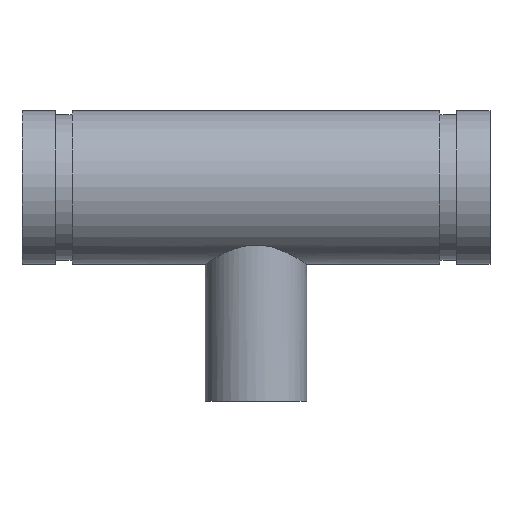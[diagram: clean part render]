
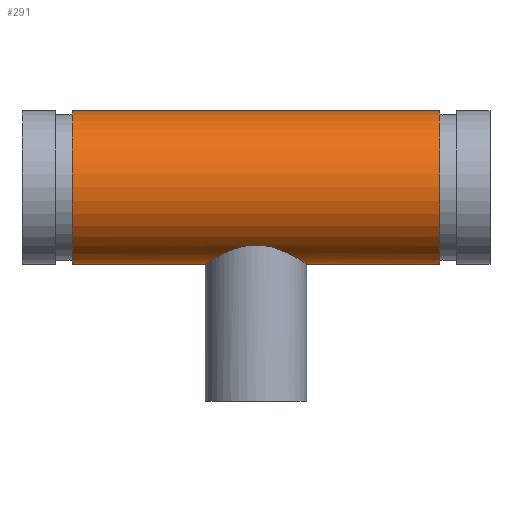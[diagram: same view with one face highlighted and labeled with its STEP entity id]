
A CAD part, top view. The second image highlights one B-rep face of the part: STEP entity #291.
In plain terms, the highlighted cylindrical face has radius 36.513 mm (diameter 73.025 mm), a full revolution.
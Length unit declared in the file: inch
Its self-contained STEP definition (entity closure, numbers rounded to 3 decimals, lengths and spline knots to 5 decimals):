
#45=B_SPLINE_CURVE_WITH_KNOTS('',3,(#511,#512,#513,#514,#515,#516,#517,
#518,#519,#520,#521,#522,#523,#524,#525,#526,#527,#528,#529,#530,#531,#532,
#533,#534,#535,#536,#537,#538,#539,#540,#541,#542,#543,#544,#545,#546,#547,
#548,#549,#550,#551,#552,#553,#554,#555,#556,#557,#558,#559,#560),
 .UNSPECIFIED.,.F.,.F.,(4,2,2,2,2,2,2,2,2,2,2,2,2,2,2,2,2,2,2,2,2,2,2,2,
4),(0.,0.47544,0.95088,1.42632,1.90175,
2.3722,2.84264,3.31308,3.78352,4.25396,
4.7244,5.19484,5.66528,6.14072,6.61616,
7.0916,7.56704,8.04248,8.51792,8.99335,
9.46879,9.93923,10.40968,10.88012,11.35056),
 .UNSPECIFIED.);
#46=B_SPLINE_CURVE_WITH_KNOTS('',3,(#561,#562,#563,#564,#565,#566,#567,
#568,#569,#570,#571,#572,#573,#574,#575,#576,#577,#578),.UNSPECIFIED.,.F.,
 .F.,(4,2,2,2,2,2,2,2,4),(11.35056,11.821,12.29144,
12.76188,13.23232,13.70776,14.1832,14.65864,
15.13408),.UNSPECIFIED.);
#51=LINE('',#508,#59);
#59=VECTOR('',#410,1.4375);
#67=CYLINDRICAL_SURFACE('',#338,1.4375);
#77=FACE_BOUND('',#108,.T.);
#88=FACE_OUTER_BOUND('',#107,.T.);
#107=EDGE_LOOP('',(#221,#222,#223,#224));
#108=EDGE_LOOP('',(#225,#226));
#121=CIRCLE('',#321,1.4375);
#132=CIRCLE('',#337,1.4375);
#141=VERTEX_POINT('',#476);
#152=VERTEX_POINT('',#505);
#153=VERTEX_POINT('',#509);
#154=VERTEX_POINT('',#510);
#165=EDGE_CURVE('',#141,#141,#121,.T.);
#178=EDGE_CURVE('',#152,#152,#132,.T.);
#179=EDGE_CURVE('',#152,#141,#51,.T.);
#180=EDGE_CURVE('',#153,#154,#45,.T.);
#181=EDGE_CURVE('',#154,#153,#46,.T.);
#221=ORIENTED_EDGE('',*,*,#178,.T.);
#222=ORIENTED_EDGE('',*,*,#179,.T.);
#223=ORIENTED_EDGE('',*,*,#165,.T.);
#224=ORIENTED_EDGE('',*,*,#179,.F.);
#225=ORIENTED_EDGE('',*,*,#180,.F.);
#226=ORIENTED_EDGE('',*,*,#181,.F.);
#291=ADVANCED_FACE('',(#88,#77),#67,.T.);
#321=AXIS2_PLACEMENT_3D('',#477,#372,#373);
#337=AXIS2_PLACEMENT_3D('',#506,#406,#407);
#338=AXIS2_PLACEMENT_3D('',#507,#408,#409);
#372=DIRECTION('center_axis',(-1.,0.,0.));
#373=DIRECTION('ref_axis',(0.,-1.,0.));
#406=DIRECTION('center_axis',(1.,0.,0.));
#407=DIRECTION('ref_axis',(0.,-1.,0.));
#408=DIRECTION('center_axis',(-1.,0.,0.));
#409=DIRECTION('ref_axis',(0.,-1.,0.));
#410=DIRECTION('',(1.,0.,0.));
#476=CARTESIAN_POINT('',(3.442,1.4375,0.));
#477=CARTESIAN_POINT('Origin',(3.442,0.,0.));
#505=CARTESIAN_POINT('',(-3.442,1.4375,0.));
#506=CARTESIAN_POINT('Origin',(-3.442,0.,0.));
#507=CARTESIAN_POINT('Origin',(4.38,0.,0.));
#508=CARTESIAN_POINT('',(4.38,1.4375,0.));
#509=CARTESIAN_POINT('',(0.,-1.07884,-0.95));
#510=CARTESIAN_POINT('',(-0.95,-1.4375,0.));
#511=CARTESIAN_POINT('Ctrl Pts',(0.,-1.07884,
-0.95));
#512=CARTESIAN_POINT('Ctrl Pts',(0.06239,-1.07884,-0.95));
#513=CARTESIAN_POINT('Ctrl Pts',(0.1258,-1.08443,-0.94377));
#514=CARTESIAN_POINT('Ctrl Pts',(0.25017,-1.10577,-0.91866));
#515=CARTESIAN_POINT('Ctrl Pts',(0.31115,-1.12148,-0.8998));
#516=CARTESIAN_POINT('Ctrl Pts',(0.42709,-1.15901,-0.85091));
#517=CARTESIAN_POINT('Ctrl Pts',(0.48217,-1.18081,-0.82084));
#518=CARTESIAN_POINT('Ctrl Pts',(0.58384,-1.22584,-0.75193));
#519=CARTESIAN_POINT('Ctrl Pts',(0.63042,-1.24904,-0.71308));
#520=CARTESIAN_POINT('Ctrl Pts',(0.71264,-1.2925,-0.63086));
#521=CARTESIAN_POINT('Ctrl Pts',(0.75142,-1.31444,-0.5845));
#522=CARTESIAN_POINT('Ctrl Pts',(0.82047,-1.3551,-0.4828));
#523=CARTESIAN_POINT('Ctrl Pts',(0.85076,-1.3738,-0.42745));
#524=CARTESIAN_POINT('Ctrl Pts',(0.89992,-1.40478,-0.31088));
#525=CARTESIAN_POINT('Ctrl Pts',(0.91884,-1.41707,-0.24954));
#526=CARTESIAN_POINT('Ctrl Pts',(0.94388,-1.43343,-0.12497));
#527=CARTESIAN_POINT('Ctrl Pts',(0.95,-1.4375,-0.06174));
#528=CARTESIAN_POINT('Ctrl Pts',(0.95,-1.4375,0.06174));
#529=CARTESIAN_POINT('Ctrl Pts',(0.94388,-1.43343,0.12497));
#530=CARTESIAN_POINT('Ctrl Pts',(0.91884,-1.41707,0.24954));
#531=CARTESIAN_POINT('Ctrl Pts',(0.89992,-1.40478,0.31088));
#532=CARTESIAN_POINT('Ctrl Pts',(0.85076,-1.3738,0.42745));
#533=CARTESIAN_POINT('Ctrl Pts',(0.82047,-1.3551,0.4828));
#534=CARTESIAN_POINT('Ctrl Pts',(0.75142,-1.31444,0.5845));
#535=CARTESIAN_POINT('Ctrl Pts',(0.71264,-1.2925,0.63086));
#536=CARTESIAN_POINT('Ctrl Pts',(0.63042,-1.24904,0.71308));
#537=CARTESIAN_POINT('Ctrl Pts',(0.58384,-1.22584,0.75193));
#538=CARTESIAN_POINT('Ctrl Pts',(0.48217,-1.18081,0.82084));
#539=CARTESIAN_POINT('Ctrl Pts',(0.42709,-1.15901,0.85091));
#540=CARTESIAN_POINT('Ctrl Pts',(0.31115,-1.12148,0.8998));
#541=CARTESIAN_POINT('Ctrl Pts',(0.25017,-1.10577,0.91866));
#542=CARTESIAN_POINT('Ctrl Pts',(0.1258,-1.08443,0.94377));
#543=CARTESIAN_POINT('Ctrl Pts',(0.06239,-1.07884,0.95));
#544=CARTESIAN_POINT('Ctrl Pts',(-0.06239,-1.07884,
0.95));
#545=CARTESIAN_POINT('Ctrl Pts',(-0.1258,-1.08443,0.94377));
#546=CARTESIAN_POINT('Ctrl Pts',(-0.25017,-1.10577,0.91866));
#547=CARTESIAN_POINT('Ctrl Pts',(-0.31115,-1.12148,0.8998));
#548=CARTESIAN_POINT('Ctrl Pts',(-0.42709,-1.15901,0.85091));
#549=CARTESIAN_POINT('Ctrl Pts',(-0.48217,-1.18081,0.82084));
#550=CARTESIAN_POINT('Ctrl Pts',(-0.58384,-1.22584,0.75193));
#551=CARTESIAN_POINT('Ctrl Pts',(-0.63042,-1.24904,0.71308));
#552=CARTESIAN_POINT('Ctrl Pts',(-0.71264,-1.2925,0.63086));
#553=CARTESIAN_POINT('Ctrl Pts',(-0.75142,-1.31444,0.5845));
#554=CARTESIAN_POINT('Ctrl Pts',(-0.82047,-1.3551,0.4828));
#555=CARTESIAN_POINT('Ctrl Pts',(-0.85076,-1.3738,0.42745));
#556=CARTESIAN_POINT('Ctrl Pts',(-0.89992,-1.40478,0.31088));
#557=CARTESIAN_POINT('Ctrl Pts',(-0.91884,-1.41707,0.24954));
#558=CARTESIAN_POINT('Ctrl Pts',(-0.94388,-1.43343,0.12497));
#559=CARTESIAN_POINT('Ctrl Pts',(-0.95,-1.4375,0.06174));
#560=CARTESIAN_POINT('Ctrl Pts',(-0.95,-1.4375,0.));
#561=CARTESIAN_POINT('Ctrl Pts',(-0.95,-1.4375,0.));
#562=CARTESIAN_POINT('Ctrl Pts',(-0.95,-1.4375,-0.06174));
#563=CARTESIAN_POINT('Ctrl Pts',(-0.94388,-1.43343,-0.12497));
#564=CARTESIAN_POINT('Ctrl Pts',(-0.91884,-1.41707,-0.24954));
#565=CARTESIAN_POINT('Ctrl Pts',(-0.89992,-1.40478,-0.31088));
#566=CARTESIAN_POINT('Ctrl Pts',(-0.85076,-1.3738,-0.42745));
#567=CARTESIAN_POINT('Ctrl Pts',(-0.82047,-1.3551,-0.4828));
#568=CARTESIAN_POINT('Ctrl Pts',(-0.75142,-1.31444,-0.5845));
#569=CARTESIAN_POINT('Ctrl Pts',(-0.71264,-1.2925,-0.63086));
#570=CARTESIAN_POINT('Ctrl Pts',(-0.63042,-1.24904,-0.71308));
#571=CARTESIAN_POINT('Ctrl Pts',(-0.58384,-1.22584,-0.75193));
#572=CARTESIAN_POINT('Ctrl Pts',(-0.48217,-1.18081,-0.82084));
#573=CARTESIAN_POINT('Ctrl Pts',(-0.42709,-1.15901,-0.85091));
#574=CARTESIAN_POINT('Ctrl Pts',(-0.31115,-1.12148,-0.8998));
#575=CARTESIAN_POINT('Ctrl Pts',(-0.25017,-1.10577,-0.91866));
#576=CARTESIAN_POINT('Ctrl Pts',(-0.1258,-1.08443,-0.94377));
#577=CARTESIAN_POINT('Ctrl Pts',(-0.06239,-1.07884,
-0.95));
#578=CARTESIAN_POINT('Ctrl Pts',(0.,-1.07884,
-0.95));
